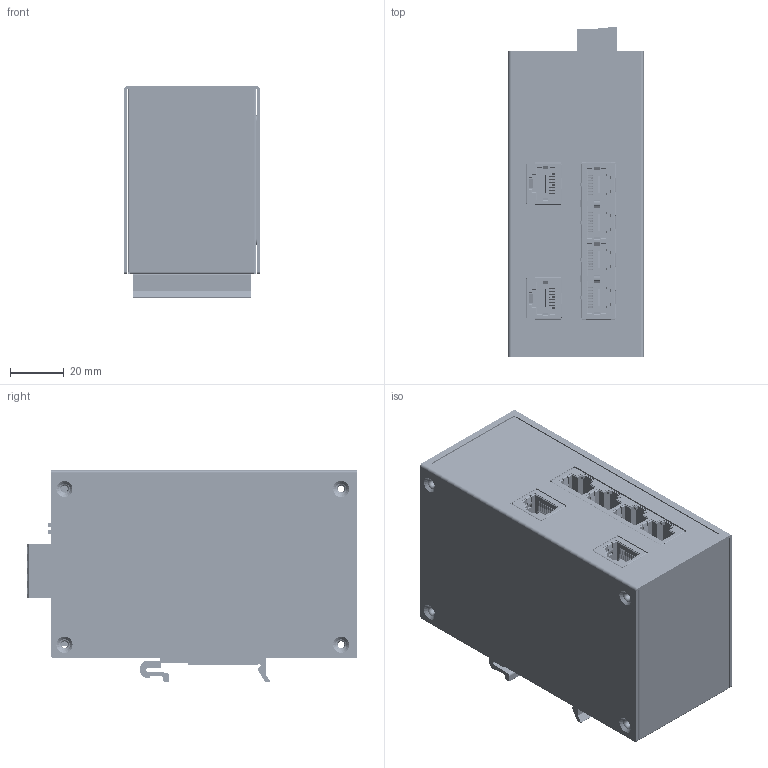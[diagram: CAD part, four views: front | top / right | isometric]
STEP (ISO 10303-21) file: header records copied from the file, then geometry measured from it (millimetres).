
FILE_DESCRIPTION((''),'2;1');
FILE_NAME('4RJ_ASM','2017-01-09T',('Workbench_DED'),('PTC'),'PRO/ENGINEER BY PARAMETRIC TECHNOLOGY CORPORATION, 2013230','PRO/ENGINEER BY PARAMETRIC TECHNOLOGY CORPORATION, 2013230','');
FILE_SCHEMA(('AUTOMOTIVE_DESIGN { 1 0 10303 214 1 1 1 1 }'));
Products named in the file (85): EDS-P206A_PCB_19; 1106999994000_LED_GREEN_SMD_1; TACKSW_DTSA644N_1; DIP_SEITCH_4PIN_1; 1111000003400_TERMINAL_M_4P_1; PCB-TERMINAL_PCB-2_1; PRT0014_1; PRT0015_1; PRT0016_1; PRT0017_1; PRT0018_1; ASM0005_ASM_1_ASM; PRT0019_1; ASM0006_ASM_1_ASM; PRT0020_1; PRT0021_1; PRT0022_1; PRT0023_1; PRT0024_1; PRT0025_1; PRT0026_1; PRT0027_1; ASM0007_ASM_1_ASM; ASM0004_ASM_1_ASM; ASM0003_ASM_1_ASM; PRT0028_1; PRT0029_1; ASM0002_ASM_1_ASM; RB4-0300F1-0000-8PIN_ASM_1_ASM; EDS-P206A_M_PCB_ASM_32_ASM; EDS-P206A_TOP_PCB_18; EDS_P206A_COMPOMENT_2; LED1_1; RT7-M110-1_RT7-C120-3-SOLID1_1; PRT0030; RT7-M110-1_RT7-C120-2-SOLID1_1; RT7-M110-1_RT7-C110-4-SOLID1_1; PRT0031; RT7-M110-1_RT7-P120-1-SOLID1_1; RT7-M110-1_RT7-C120-5-SOLID1_1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
Assembly tree (115 placements, depth 9):
  4RJ_ASM
    EDS-P206A_ASM_24_ASM
      EDS-P206A_M_PCB_ASM_32_ASM
        EDS-P206A_PCB_19
        1106999994000_LED_GREEN_SMD_1  x6
        TACKSW_DTSA644N_1
        DIP_SEITCH_4PIN_1
        1111000003400_TERMINAL_M_4P_1
        PCB-TERMINAL_PCB-2_1
        RB4-0300F1-0000-8PIN_ASM_1_ASM
          ASM0002_ASM_1_ASM
            PRT0014_1
            ASM0003_ASM_1_ASM  x4
              ASM0004_ASM_1_ASM
                ASM0005_ASM_1_ASM
                  PRT0015_1
                  PRT0016_1  x4
                  PRT0017_1  x4
                  PRT0018_1  x11
                ASM0006_ASM_1_ASM
                  PRT0019_1
                ASM0007_ASM_1_ASM
                  PRT0020_1
                  PRT0021_1
                  PRT0022_1
                  PRT0023_1
                  PRT0024_1
                  PRT0025_1
                  PRT0026_1
                  PRT0027_1
            PRT0028_1
            PRT0029_1
      EDS-P206A_TOP_M_PCB_ASM_33_ASM
        EDS-P206A_TOP_PCB_18
        EDS_P206A_COMPOMENT_2
        LED1_1  x2
        1106999994000_LED_GREEN_SMD_1  x4
        RT7-02X0X1-0000-8PIN_ASM_1_ASM  x2
          ASM0008_ASM_1_ASM
            RT7-M110-1_RT7-C120-3-SOLID1_1
            PRT0030
            RT7-M110-1_RT7-C120-2-SOLID1_1
            RT7-M110-1_RT7-C110-4-SOLID1_1
            PRT0031
            RT7-M110-1_RT7-P120-1-SOLID1_1
            RT7-M110-1_RT7-C120-5-SOLID1_1
            PRT0032
            RT7-P140-1-SOLID1_1
            RT7-P110-J3-1-SOLID1_1
            RT7-S110-W-2-SOLID1_1
            PRT0033
            RT7-M110-1_RT7-C110-1-SOLID1_1
            RT7-P130-1-SOLID1_1
            PRT0034
            PRT0035
            RT7-M110-1_RT7-C110-2-SOLID1_1
            RT7-M110-1_RT7-C110-3-SOLID1_1
            RT7-M110-1_RT7-C120-4-SOLID1_1
            PRT0036
            PRT0037
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Bounding box: 50.3 x 123.05 x 78.8 mm (x, y, z)
Volume: 81880.6 mm3; surface area: 172967.1 mm2
Topology: 204 solids, 216 shells, 16376 faces, 43425 edges, 27631 vertices
Faces by surface type: plane 12230, cylinder 3579, bspline 408, torus 79, cone 64, sphere 16
Entity records: 238786 total; most frequent: CARTESIAN_POINT 41104, ORIENTED_EDGE 34556, DIRECTION 32939, EDGE_CURVE 17280, VECTOR 13947, LINE 13947, VERTEX_POINT 10940, AXIS2_PLACEMENT_3D 9496
